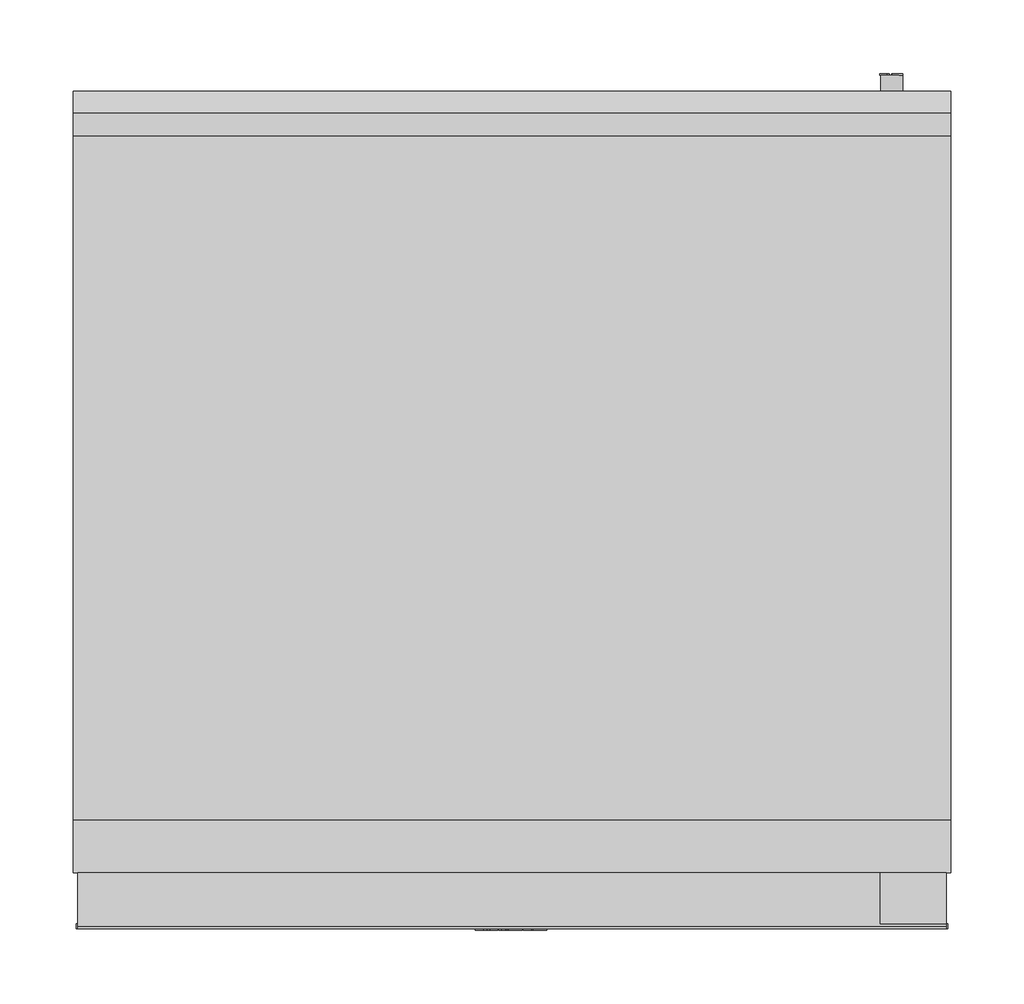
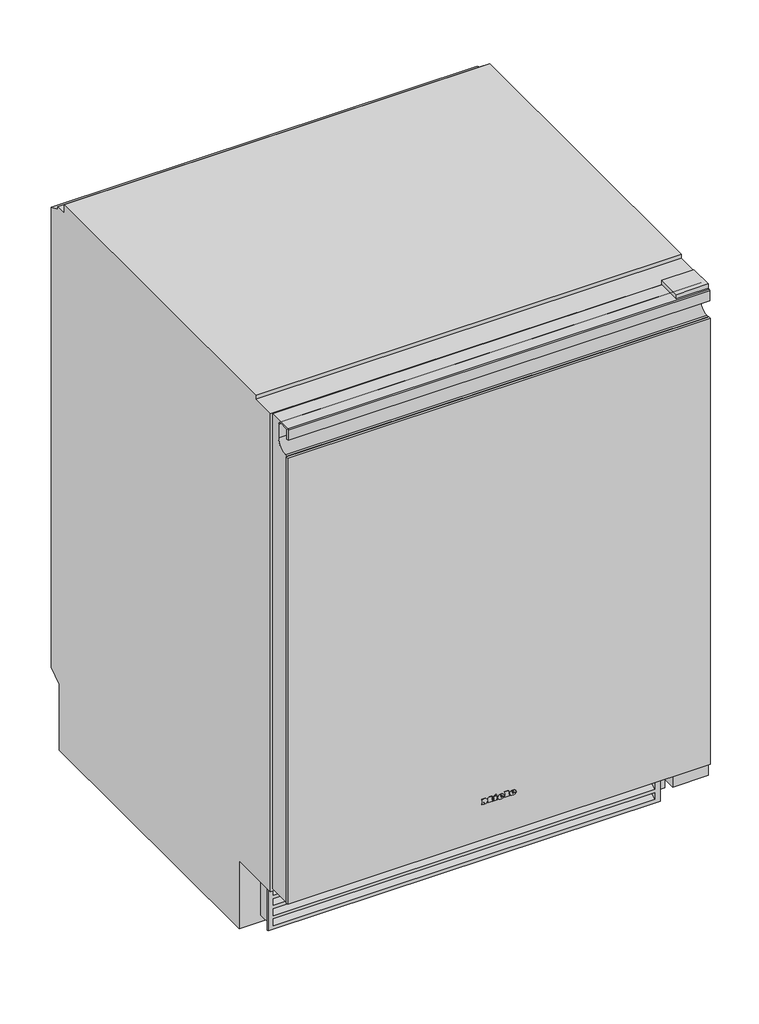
# Not in any storey: 1 proxy.
"""IFC4 building model written with IfcOpenShell, lengths in millimetres."""

from ifc_helpers import new_model, si_unit, origin, place, context, project, spatial, transform, mapped, element, save
from components import specialty_equipment_dfb418a5, specialty_equipment_eea160db

model = new_model("IFC4")

# Units and contexts
model_context = context("Model", 3, world=origin())
ifc_project = project(units=[si_unit("LENGTHUNIT", "METRE", prefix="MILLI")], contexts=[model_context])

# Site, building
site = spatial("IfcSite", under=ifc_project)
building = spatial("IfcBuilding", under=site)

# Proxy
placement = place(None, origin())
specialty_equipment_shape = specialty_equipment_dfb418a5(model_context)
specialty_equipment_2_shape = specialty_equipment_eea160db(model_context)
element("IfcBuildingElementProxy", 1, Name="09850180_AUS_KWT6321UG : 36632100_AUS_9850180_KWT6321UG", ObjectType="09850180_AUS_KWT6321UG : 36632100_AUS_9850180_KWT6321UG", at=placement, inside=building, context=model_context, shape_type="MappedRepresentation", body=[
    mapped(specialty_equipment_shape, transform((0.0, 0.0, 0.0), x_axis=(1.0, 0.0, 0.0), y_axis=(0.0, 1.0, 0.0), z_axis=(0.0, 0.0, 1.0))),
    mapped(specialty_equipment_2_shape, transform((0.0, 0.0, 0.0), x_axis=(1.0, 0.0, 0.0), y_axis=(0.0, 1.0, 0.0), z_axis=(0.0, 0.0, 1.0))),
])

save(model, "model.ifc")
